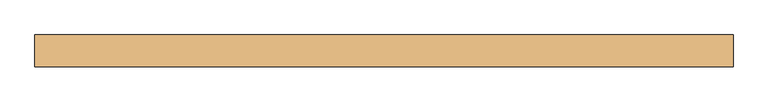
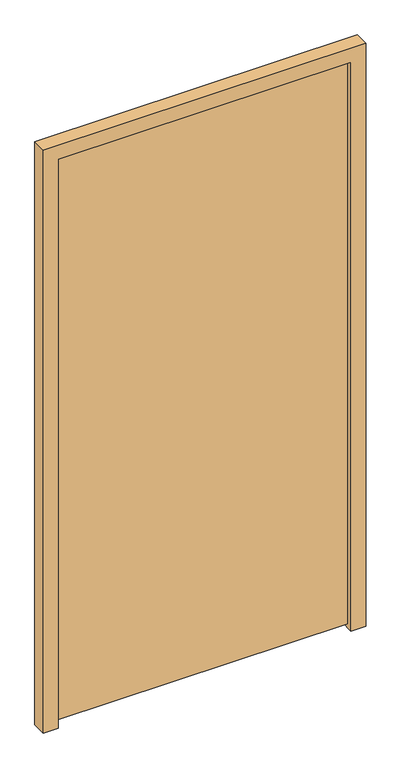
"""IFC4 building model written with IfcOpenShell, lengths in millimetres: door geometry, Dr_Дверь_v2.1 : ДВСТД Оп Ос 21-11 Л EIS60."""

import ifcopenshell
import ifcopenshell.guid

model = None  # the IFC model being written
_history = None  # IfcOwnerHistory: only IFC2X3 demands one
_inside = {}  # id of a spatial element -> (the spatial element, [elements in it])
_under = {}  # id of a project, library or spatial element -> (it, [spatial elements below it])
_declared = {}  # id of a project -> (the project, [libraries it declares])
_typed = {}  # id of a type object -> (the type object, [elements of that type])
_made_of = {}  # id of a material, layer set ... -> (it, [elements and type objects made of it])


def new_model(schema):
    """Start an empty IFC model of exactly this schema.

    Asked for "IFC4X3", IfcOpenShell would pick the latest addendum, in which some entities
    have other attributes; the version numbers below select the first issue.
    IFC2X3 requires an IfcOwnerHistory on every rooted entity: one is made here for all.
    """
    global model, _history
    if schema == "IFC4X3":
        model = ifcopenshell.file(schema_version=(4, 3, 0, 0))
    else:
        model = ifcopenshell.file(schema=schema)
    _inside.clear()
    _under.clear()
    _declared.clear()
    _typed.clear()
    _made_of.clear()
    _history = None
    if model.schema == "IFC2X3":
        org = make("IfcOrganization", Name="unknown")
        user = make(
            "IfcPersonAndOrganization",
            ThePerson=make("IfcPerson", FamilyName="unknown"),
            TheOrganization=org,
        )
        app = make(
            "IfcApplication",
            ApplicationDeveloper=org,
            Version="unknown",
            ApplicationFullName="unknown",
            ApplicationIdentifier="unknown",
        )
        _history = make(
            "IfcOwnerHistory",
            OwningUser=user,
            OwningApplication=app,
            ChangeAction="ADDED",
            CreationDate=0,
        )
    return model


def make(cls, **values):
    """One entity of the class cls with the attributes given. An attribute that is None is left unset."""
    return model.create_entity(
        cls, **{name: value for name, value in values.items() if value is not None}
    )


def rooted(cls, **values):
    """An entity with a GlobalId (a new one), such as an element, a storey or a relation."""
    return make(cls, GlobalId=ifcopenshell.guid.new(), OwnerHistory=_history, **values)


def si_unit(unit_type, name, prefix=None):
    """IfcSIUnit, for example si_unit("LENGTHUNIT", "METRE", prefix="MILLI")."""
    return make("IfcSIUnit", UnitType=unit_type, Prefix=prefix, Name=name)


def assignment(units):
    """IfcUnitAssignment: the units of a project."""
    return None if units is None else make("IfcUnitAssignment", Units=units)


def point(xyz):
    """IfcCartesianPoint."""
    return None if xyz is None else make("IfcCartesianPoint", Coordinates=xyz)


def direction(xyz):
    """IfcDirection."""
    return None if xyz is None else make("IfcDirection", DirectionRatios=xyz)


def frame(location, z_axis=None, x_axis=None):
    """IfcAxis2Placement3D, a coordinate frame: its origin and axes. An axis left out is left unset."""
    return make(
        "IfcAxis2Placement3D",
        Location=point(location),
        Axis=direction(z_axis),
        RefDirection=direction(x_axis),
    )


def origin():
    """The frame at (0, 0, 0) with its axes left unset."""
    return frame((0.0, 0.0, 0.0))


def place(relative_to, where):
    """IfcLocalPlacement: puts the frame where relative to a parent placement (None: the world)."""
    return make(
        "IfcLocalPlacement", PlacementRelTo=relative_to, RelativePlacement=where
    )


def context(
    kind, dimensions, precision=None, world=None, true_north=None, identifier=None
):
    """IfcGeometricRepresentationContext, for example the 3D "Model" context."""
    return make(
        "IfcGeometricRepresentationContext",
        ContextIdentifier=identifier,
        ContextType=kind,
        CoordinateSpaceDimension=dimensions,
        Precision=precision,
        WorldCoordinateSystem=world,
        TrueNorth=true_north,
    )


def project(units=None, contexts=None):
    """IfcProject with its units and contexts."""
    return rooted(
        "IfcProject",
        Name="project",
        RepresentationContexts=contexts,
        UnitsInContext=assignment(units),
    )


def spatial(cls, under=None, at=None, **own):
    """A site, building, storey or space (cls), placed at a placement, below another one or the project."""
    s = rooted(cls, ObjectPlacement=at, **own)
    if under is not None:
        _under.setdefault(under.id(), (under, []))[1].append(s)
    return s


def polyline(points):
    """IfcPolyline through the points."""
    return make("IfcPolyline", Points=[point(p) for p in points])


def outline(outer, holes=None, kind="AREA"):
    """IfcArbitraryClosedProfileDef: a profile drawn as a closed curve; with holes, ...WithVoids."""
    if holes is None:
        return make("IfcArbitraryClosedProfileDef", ProfileType=kind, OuterCurve=outer)
    return make(
        "IfcArbitraryProfileDefWithVoids",
        ProfileType=kind,
        OuterCurve=outer,
        InnerCurves=holes,
    )


def extrude(swept, where, along, depth):
    """IfcExtrudedAreaSolid: the profile swept, set in the frame where, extruded along a direction by depth."""
    return make(
        "IfcExtrudedAreaSolid",
        SweptArea=swept,
        Position=where,
        ExtrudedDirection=direction(along),
        Depth=depth,
    )


def shape(context_of_items, identifier, shape_type, items):
    """IfcShapeRepresentation: the items that make up one representation, for example the "Body"."""
    return make(
        "IfcShapeRepresentation",
        ContextOfItems=context_of_items,
        RepresentationIdentifier=identifier,
        RepresentationType=shape_type,
        Items=items,
    )


def source(mapping_origin, context_of_items, identifier, shape_type, items):
    """IfcRepresentationMap: a shape defined once, which mapped items show again and again."""
    return make(
        "IfcRepresentationMap",
        MappingOrigin=mapping_origin,
        MappedRepresentation=shape(context_of_items, identifier, shape_type, items),
    )


def transform(
    local_origin,
    x_axis=None,
    y_axis=None,
    z_axis=None,
    scale=None,
    scale2=None,
    scale3=None,
    uniform=True,
):
    """IfcCartesianTransformationOperator3D, or its non-uniform kind. x_axis, y_axis, z_axis: its Axis1, 2, 3."""
    if uniform:
        return make(
            "IfcCartesianTransformationOperator3D",
            Axis1=direction(x_axis),
            Axis2=direction(y_axis),
            LocalOrigin=point(local_origin),
            Scale=scale,
            Axis3=direction(z_axis),
        )
    return make(
        "IfcCartesianTransformationOperator3DnonUniform",
        Axis1=direction(x_axis),
        Axis2=direction(y_axis),
        LocalOrigin=point(local_origin),
        Scale=scale,
        Axis3=direction(z_axis),
        Scale2=scale2,
        Scale3=scale3,
    )


def mapped(mapping_source, mapping_target):
    """IfcMappedItem: shows the shape of a source again, moved by a transform."""
    return make(
        "IfcMappedItem", MappingSource=mapping_source, MappingTarget=mapping_target
    )


def made_of(thing, what):
    """Note that an element or type object is made of a material, layer set ...; save() writes the relation."""
    if what is not None:
        _made_of.setdefault(what.id(), (what, []))[1].append(thing)
    return thing


def element(
    cls,
    number,
    at=None,
    inside=None,
    cuts=None,
    type_object=None,
    material=None,
    context=None,
    identifier="Body",
    shape_type=None,
    held_by="IfcProductDefinitionShape",
    body=None,
    shapes=None,
    **own,
):
    """One element of the class cls, such as IfcWall. Its Tag is "e" and its number.

    at: its placement. inside: the storey or other place that contains it. cuts: it is an
    opening in that element (IfcRelVoidsElement). A single representation is given by context,
    identifier, shape_type and body (its items); several are given by shapes. held_by: the class
    of the entity that holds the representations. save() writes the other relations.
    """
    e = rooted(cls, Tag="e%d" % number, ObjectPlacement=at, **own)
    if body is not None:
        shapes = [shape(context, identifier, shape_type, body)]
    if shapes is not None:
        e.Representation = make(held_by, Representations=shapes)
    if inside is not None:
        _inside.setdefault(inside.id(), (inside, []))[1].append(e)
    if cuts is not None:
        rooted(
            "IfcRelVoidsElement", RelatingBuildingElement=cuts, RelatedOpeningElement=e
        )
    if type_object is not None:
        _typed.setdefault(type_object.id(), (type_object, []))[1].append(e)
    return made_of(e, material)


def aggregate(whole, parts):
    """IfcRelAggregates: a whole, such as a stair, and the parts it consists of."""
    return rooted("IfcRelAggregates", RelatingObject=whole, RelatedObjects=parts)


def save(model, path):
    """Write the relations noted so far, then the file.

    IfcRelAggregates (storeys below a building ...), IfcRelContainedInSpatialStructure (elements
    in a storey), IfcRelDefinesByType, IfcRelAssociatesMaterial and IfcRelDeclares: one each for
    every whole, place, type object, material and project.
    """
    for whole, parts in _under.values():
        aggregate(whole, parts)
    for where, things in _inside.values():
        rooted(
            "IfcRelContainedInSpatialStructure",
            RelatedElements=things,
            RelatingStructure=where,
        )
    for kind, things in _typed.values():
        rooted("IfcRelDefinesByType", RelatedObjects=things, RelatingType=kind)
    for what, things in _made_of.values():
        rooted("IfcRelAssociatesMaterial", RelatedObjects=things, RelatingMaterial=what)
    for by, libraries in _declared.values():
        rooted("IfcRelDeclares", RelatingContext=by, RelatedDefinitions=libraries)
    model.write(path)


def door_b067f354(model_context):
    return source(origin(), model_context, "Body", "SweptSolid", [
        extrude(outline(polyline([(0.0, -375.0), (2050.0, -375.0), (2050.0, 625.0), (0.0, 625.0), (0.0, 675.0), (2100.0, 675.0), (2100.0, -425.0), (0.0, -425.0), (0.0, -375.0)])), frame((0.0, -90.0, 0.0), z_axis=(0.0, 1.0, 0.0), x_axis=(0.0, 0.0, 1.0)), (0.0, 0.0, 1.0), 50.0),
        extrude(outline(polyline([(625.0, -70.0), (-375.0, -70.0), (-375.0, -40.0), (625.0, -40.0), (625.0, -70.0)])), frame((0.0, 0.0, 14.0), z_axis=(0.0, 0.0, 1.0), x_axis=(1.0, 0.0, 0.0)), (0.0, 0.0, 1.0), 2036.0),
    ])


if __name__ == "__main__":
    model = new_model("IFC4")
    model_context = context("Model", 3, world=origin())
    ifc_project = project(units=[si_unit("LENGTHUNIT", "METRE", prefix="MILLI")], contexts=[model_context])
    site = spatial("IfcSite", under=ifc_project)
    building = spatial("IfcBuilding", under=site)
    placement = place(None, origin())
    door_shape = door_b067f354(model_context)
    element("IfcDoor", 1, ObjectType="Dr_Дверь_v2.1 : ДВСТД Оп Ос 21-11 Л EIS60", at=placement, inside=building, context=model_context, shape_type="MappedRepresentation", body=[
        mapped(door_shape, transform((0.0, 0.0, 0.0), x_axis=(1.0, 0.0, 0.0), y_axis=(0.0, 1.0, 0.0), z_axis=(0.0, 0.0, 1.0))),
    ])
    save(model, "model.ifc")
